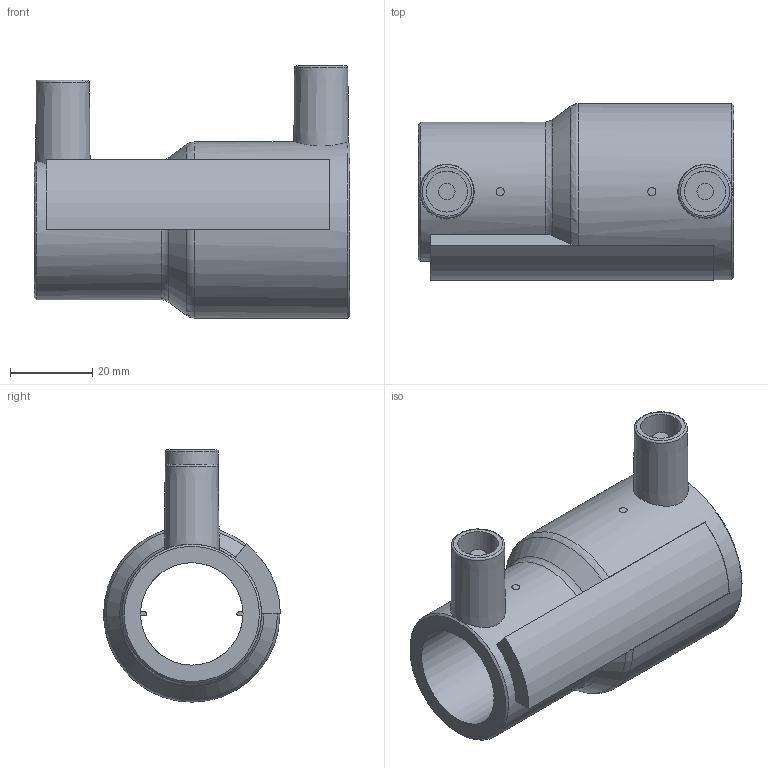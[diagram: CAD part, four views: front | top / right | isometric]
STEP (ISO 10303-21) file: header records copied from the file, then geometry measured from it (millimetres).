
FILE_DESCRIPTION(/* description */ ('Unknown'),/* implementation_level */ '2;1');
FILE_NAME(/* name */ 'REP032025C',/* time_stamp */ '2021-05-26T08:53:40+02:00',/* author */ ('Unknown'),/* organization */ ('Unknown'),/* preprocessor_version */ 'ST-DEVELOPER v16.7',/* originating_system */ 'Solid Edge',/* authorisation */ 'Unknown');
FILE_SCHEMA (('AUTOMOTIVE_DESIGN {1 0 10303 214 3 1 1}'));
Length unit declared in the file: millimetre
Products named in the file (1): REP032025C
Bounding box: 77 x 43.09 x 61.5 mm (x, y, z)
Volume: 48263.8 mm3; surface area: 21298.5 mm2
Topology: 1 solids, 1 shells, 45 faces, 102 edges, 66 vertices
Faces by surface type: plane 21, cylinder 15, cone 5, torus 4
Full cylindrical faces by diameter (mm): 4 x2, 10 x2, 25 x1, 32 x1, 34 x1, 43 x1
Entity records: 1203 total; most frequent: CARTESIAN_POINT 255, DIRECTION 201, ORIENTED_EDGE 158, AXIS2_PLACEMENT_3D 87, EDGE_CURVE 79, EDGE_LOOP 68, FACE_BOUND 68, VERTEX_POINT 57
